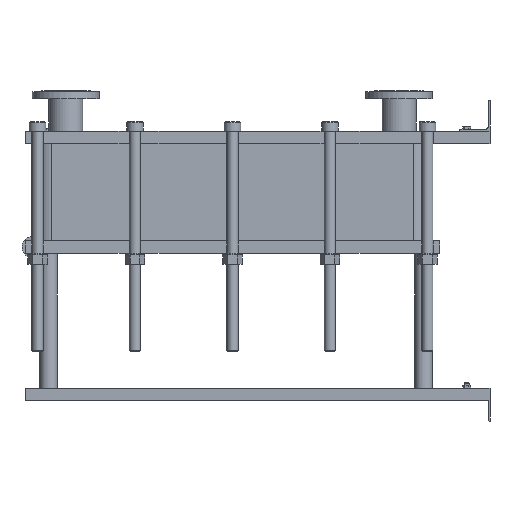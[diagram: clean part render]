
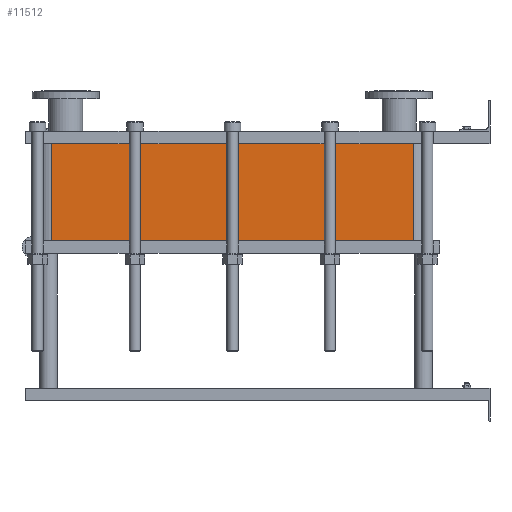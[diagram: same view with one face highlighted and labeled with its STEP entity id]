
A CAD part, left-side view. The second image highlights one B-rep face of the part: STEP entity #11512.
In plain terms, the highlighted planar face has unit normal (-1, 0, 0).
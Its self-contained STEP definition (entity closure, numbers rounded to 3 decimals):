
#1129=LINE('',#23232,#2102);
#1130=LINE('',#23236,#2103);
#1131=LINE('',#23238,#2104);
#1132=LINE('',#23239,#2105);
#2102=VECTOR('',#15887,10.);
#2103=VECTOR('',#15892,10.);
#2104=VECTOR('',#15893,10.);
#2105=VECTOR('',#15894,10.);
#3267=FACE_OUTER_BOUND('',#4093,.T.);
#4093=EDGE_LOOP('',(#10103,#10104,#10105,#10106));
#5642=VERTEX_POINT('',#23229);
#5643=VERTEX_POINT('',#23231);
#5644=VERTEX_POINT('',#23235);
#5645=VERTEX_POINT('',#23237);
#7159=EDGE_CURVE('',#5643,#5642,#1129,.T.);
#7161=EDGE_CURVE('',#5642,#5644,#1130,.T.);
#7162=EDGE_CURVE('',#5645,#5644,#1131,.T.);
#7163=EDGE_CURVE('',#5645,#5643,#1132,.T.);
#10103=ORIENTED_EDGE('',*,*,#7161,.T.);
#10104=ORIENTED_EDGE('',*,*,#7162,.F.);
#10105=ORIENTED_EDGE('',*,*,#7163,.T.);
#10106=ORIENTED_EDGE('',*,*,#7159,.T.);
#10857=PLANE('',#12751);
#11512=ADVANCED_FACE('',(#3267),#10857,.T.);
#12751=AXIS2_PLACEMENT_3D('',#23234,#15890,#15891);
#15887=DIRECTION('',(0.,0.,-1.));
#15890=DIRECTION('center_axis',(-1.,0.,0.));
#15891=DIRECTION('ref_axis',(0.,1.,0.));
#15892=DIRECTION('',(0.,-1.,0.));
#15893=DIRECTION('',(0.,0.,-1.));
#15894=DIRECTION('',(0.,1.,0.));
#23229=CARTESIAN_POINT('',(-200.,1414.,-313.95));
#23231=CARTESIAN_POINT('',(-200.,1414.,0.));
#23232=CARTESIAN_POINT('',(-200.,1414.,0.));
#23234=CARTESIAN_POINT('Origin',(-200.,248.,0.));
#23235=CARTESIAN_POINT('',(-200.,248.,-313.95));
#23236=CARTESIAN_POINT('',(-200.,539.5,-313.95));
#23237=CARTESIAN_POINT('',(-200.,248.,0.));
#23238=CARTESIAN_POINT('',(-200.,248.,0.));
#23239=CARTESIAN_POINT('',(-200.,248.,0.));
